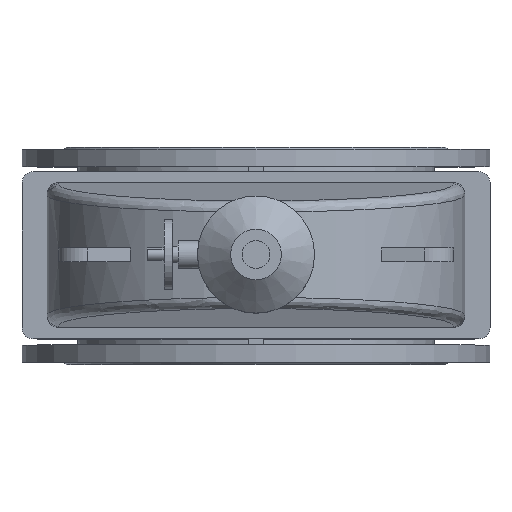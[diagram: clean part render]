
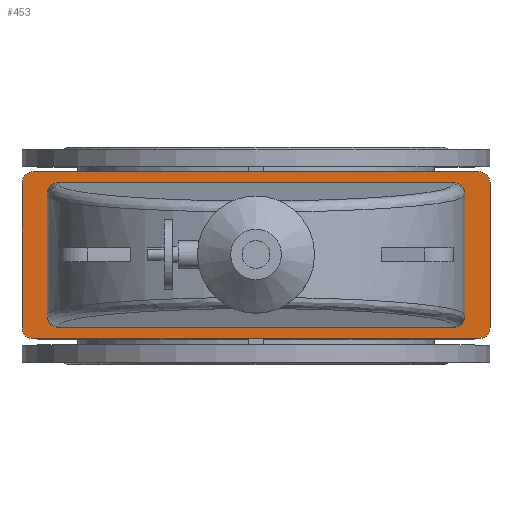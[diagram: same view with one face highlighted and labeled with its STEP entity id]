
A CAD part, top view. The second image highlights one B-rep face of the part: STEP entity #453.
In plain terms, the highlighted planar face has unit normal (0, 0, 1).
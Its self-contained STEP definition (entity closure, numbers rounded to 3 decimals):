
#453=ADVANCED_FACE('',(#4374,#4376),#4378,.T.);
#4374=FACE_BOUND('',#4375,.T.);
#4375=EDGE_LOOP('',(#8638,#8639,#8640,#8641,#8642,#8643,#8644,#8645));
#4376=FACE_BOUND('',#4377,.T.);
#4377=EDGE_LOOP('',(#8646,#8647,#8648,#8649,#8650,#8651,#8652,#8653));
#4378=PLANE('',#4379);
#4379=AXIS2_PLACEMENT_3D('',#4380,#4381,#4382);
#4380=CARTESIAN_POINT('',(0.,0.,876.));
#4381=DIRECTION('',(0.,-0.,1.));
#4382=DIRECTION('',(0.,1.,0.));
#8638=ORIENTED_EDGE('',*,*,#10440,.F.);
#8639=ORIENTED_EDGE('',*,*,#10441,.T.);
#8640=ORIENTED_EDGE('',*,*,#10442,.F.);
#8641=ORIENTED_EDGE('',*,*,#10443,.T.);
#8642=ORIENTED_EDGE('',*,*,#10444,.F.);
#8643=ORIENTED_EDGE('',*,*,#10445,.T.);
#8644=ORIENTED_EDGE('',*,*,#10446,.F.);
#8645=ORIENTED_EDGE('',*,*,#10447,.T.);
#8646=ORIENTED_EDGE('',*,*,#10438,.F.);
#8647=ORIENTED_EDGE('',*,*,#10437,.F.);
#8648=ORIENTED_EDGE('',*,*,#10439,.F.);
#8649=ORIENTED_EDGE('',*,*,#10412,.F.);
#8650=ORIENTED_EDGE('',*,*,#10448,.F.);
#8651=ORIENTED_EDGE('',*,*,#10449,.F.);
#8652=ORIENTED_EDGE('',*,*,#10450,.F.);
#8653=ORIENTED_EDGE('',*,*,#10405,.F.);
#10405=EDGE_CURVE('',#11376,#11378,#11379,.T.);
#10412=EDGE_CURVE('',#11388,#11386,#11390,.T.);
#10437=EDGE_CURVE('',#11429,#11427,#11431,.T.);
#10438=EDGE_CURVE('',#11427,#11376,#11432,.F.);
#10439=EDGE_CURVE('',#11386,#11429,#11433,.T.);
#10440=EDGE_CURVE('',#11434,#11435,#11436,.F.);
#10441=EDGE_CURVE('',#11434,#11437,#11438,.T.);
#10442=EDGE_CURVE('',#11439,#11437,#11440,.F.);
#10443=EDGE_CURVE('',#11439,#11441,#11442,.T.);
#10444=EDGE_CURVE('',#11443,#11441,#11444,.F.);
#10445=EDGE_CURVE('',#11443,#11445,#11446,.T.);
#10446=EDGE_CURVE('',#11447,#11445,#11448,.F.);
#10447=EDGE_CURVE('',#11447,#11435,#11449,.T.);
#10448=EDGE_CURVE('',#11450,#11388,#11451,.F.);
#10449=EDGE_CURVE('',#11452,#11450,#11453,.T.);
#10450=EDGE_CURVE('',#11378,#11452,#11454,.T.);
#11376=VERTEX_POINT('',#13292);
#11378=VERTEX_POINT('',#13296);
#11379=LINE('',#13297,#13298);
#11386=VERTEX_POINT('',#13317);
#11388=VERTEX_POINT('',#13321);
#11390=LINE('',#13325,#13326);
#11427=VERTEX_POINT('',#13418);
#11429=VERTEX_POINT('',#13422);
#11431=LINE('',#13426,#13427);
#11432=(BOUNDED_CURVE()B_SPLINE_CURVE(3,
(#13429,#13430,#13431,#13432),
.UNSPECIFIED.,.F.,.F.)B_SPLINE_CURVE_WITH_KNOTS((4,4),
(0.,1.),
.UNSPECIFIED.)CURVE()GEOMETRIC_REPRESENTATION_ITEM()RATIONAL_B_SPLINE_CURVE((1.,
0.805,0.805,1.))REPRESENTATION_ITEM(''));
#11433=(BOUNDED_CURVE()B_SPLINE_CURVE(3,
(#13433,#13434,#13435,#13436),
.UNSPECIFIED.,.F.,.F.)B_SPLINE_CURVE_WITH_KNOTS((4,4),
(0.,1.),
.UNSPECIFIED.)CURVE()GEOMETRIC_REPRESENTATION_ITEM()RATIONAL_B_SPLINE_CURVE((1.,
0.805,0.805,1.))REPRESENTATION_ITEM(''));
#11434=VERTEX_POINT('',#13437);
#11435=VERTEX_POINT('',#13438);
#11436=CIRCLE('',#13439,20.);
#11437=VERTEX_POINT('',#13443);
#11438=LINE('',#13444,#13445);
#11439=VERTEX_POINT('',#13447);
#11440=CIRCLE('',#13448,20.);
#11441=VERTEX_POINT('',#13452);
#11442=LINE('',#13453,#13454);
#11443=VERTEX_POINT('',#13456);
#11444=CIRCLE('',#13457,20.);
#11445=VERTEX_POINT('',#13461);
#11446=LINE('',#13462,#13463);
#11447=VERTEX_POINT('',#13465);
#11448=CIRCLE('',#13466,20.);
#11449=LINE('',#13470,#13471);
#11450=VERTEX_POINT('',#13473);
#11451=(BOUNDED_CURVE()B_SPLINE_CURVE(3,
(#13474,#13475,#13476,#13477),
.UNSPECIFIED.,.F.,.F.)B_SPLINE_CURVE_WITH_KNOTS((4,4),
(0.,1.),
.UNSPECIFIED.)CURVE()GEOMETRIC_REPRESENTATION_ITEM()RATIONAL_B_SPLINE_CURVE((1.,
0.805,0.805,1.))REPRESENTATION_ITEM(''));
#11452=VERTEX_POINT('',#13478);
#11453=LINE('',#13479,#13480);
#11454=(BOUNDED_CURVE()B_SPLINE_CURVE(3,
(#13482,#13483,#13484,#13485),
.UNSPECIFIED.,.F.,.F.)B_SPLINE_CURVE_WITH_KNOTS((4,4),
(0.,1.),
.UNSPECIFIED.)CURVE()GEOMETRIC_REPRESENTATION_ITEM()RATIONAL_B_SPLINE_CURVE((1.,
0.805,0.805,1.))REPRESENTATION_ITEM(''));
#13292=CARTESIAN_POINT('',(375.,-109.924,876.));
#13296=CARTESIAN_POINT('',(375.,109.924,876.));
#13297=CARTESIAN_POINT('',(375.,-109.924,876.));
#13298=VECTOR('',#13299,1.);
#13299=DIRECTION('',(0.,1.,0.));
#13317=CARTESIAN_POINT('',(-375.,-109.924,876.));
#13321=CARTESIAN_POINT('',(-375.,109.924,876.));
#13325=CARTESIAN_POINT('',(-375.,109.924,876.));
#13326=VECTOR('',#13327,1.);
#13327=DIRECTION('',(0.,-1.,0.));
#13418=CARTESIAN_POINT('',(355.,-130.,876.));
#13422=CARTESIAN_POINT('',(-355.,-130.,876.));
#13426=CARTESIAN_POINT('',(-355.,-130.,876.));
#13427=VECTOR('',#13428,1.);
#13428=DIRECTION('',(1.,0.,0.));
#13429=CARTESIAN_POINT('',(375.,-109.924,876.));
#13430=CARTESIAN_POINT('',(375.,-121.684,876.));
#13431=CARTESIAN_POINT('',(366.716,-130.,876.));
#13432=CARTESIAN_POINT('',(355.,-130.,876.));
#13433=CARTESIAN_POINT('',(-375.,-109.924,876.));
#13434=CARTESIAN_POINT('',(-375.,-121.684,876.));
#13435=CARTESIAN_POINT('',(-366.716,-130.,876.));
#13436=CARTESIAN_POINT('',(-355.,-130.,876.));
#13437=CARTESIAN_POINT('',(-400.,-150.,876.));
#13438=CARTESIAN_POINT('',(-420.,-130.,876.));
#13439=AXIS2_PLACEMENT_3D('',#13440,#13441,#13442);
#13440=CARTESIAN_POINT('',(-400.,-130.,876.));
#13441=DIRECTION('',(0.,-0.,1.));
#13442=DIRECTION('',(-1.,0.,0.));
#13443=CARTESIAN_POINT('',(400.,-150.,876.));
#13444=CARTESIAN_POINT('',(-400.,-150.,876.));
#13445=VECTOR('',#13446,1.);
#13446=DIRECTION('',(1.,0.,0.));
#13447=CARTESIAN_POINT('',(420.,-130.,876.));
#13448=AXIS2_PLACEMENT_3D('',#13449,#13450,#13451);
#13449=CARTESIAN_POINT('',(400.,-130.,876.));
#13450=DIRECTION('',(0.,-0.,1.));
#13451=DIRECTION('',(0.,-1.,0.));
#13452=CARTESIAN_POINT('',(420.,130.,876.));
#13453=CARTESIAN_POINT('',(420.,-130.,876.));
#13454=VECTOR('',#13455,1.);
#13455=DIRECTION('',(0.,1.,0.));
#13456=CARTESIAN_POINT('',(400.,150.,876.));
#13457=AXIS2_PLACEMENT_3D('',#13458,#13459,#13460);
#13458=CARTESIAN_POINT('',(400.,130.,876.));
#13459=DIRECTION('',(0.,-0.,1.));
#13460=DIRECTION('',(1.,0.,0.));
#13461=CARTESIAN_POINT('',(-400.,150.,876.));
#13462=CARTESIAN_POINT('',(400.,150.,876.));
#13463=VECTOR('',#13464,1.);
#13464=DIRECTION('',(-1.,0.,0.));
#13465=CARTESIAN_POINT('',(-420.,130.,876.));
#13466=AXIS2_PLACEMENT_3D('',#13467,#13468,#13469);
#13467=CARTESIAN_POINT('',(-400.,130.,876.));
#13468=DIRECTION('',(0.,-0.,1.));
#13469=DIRECTION('',(0.,1.,0.));
#13470=CARTESIAN_POINT('',(-420.,130.,876.));
#13471=VECTOR('',#13472,1.);
#13472=DIRECTION('',(0.,-1.,0.));
#13473=CARTESIAN_POINT('',(-355.,130.,876.));
#13474=CARTESIAN_POINT('',(-375.,109.924,876.));
#13475=CARTESIAN_POINT('',(-375.,121.684,876.));
#13476=CARTESIAN_POINT('',(-366.716,130.,876.));
#13477=CARTESIAN_POINT('',(-355.,130.,876.));
#13478=CARTESIAN_POINT('',(355.,130.,876.));
#13479=CARTESIAN_POINT('',(355.,130.,876.));
#13480=VECTOR('',#13481,1.);
#13481=DIRECTION('',(-1.,0.,0.));
#13482=CARTESIAN_POINT('',(375.,109.924,876.));
#13483=CARTESIAN_POINT('',(375.,121.684,876.));
#13484=CARTESIAN_POINT('',(366.716,130.,876.));
#13485=CARTESIAN_POINT('',(355.,130.,876.));
